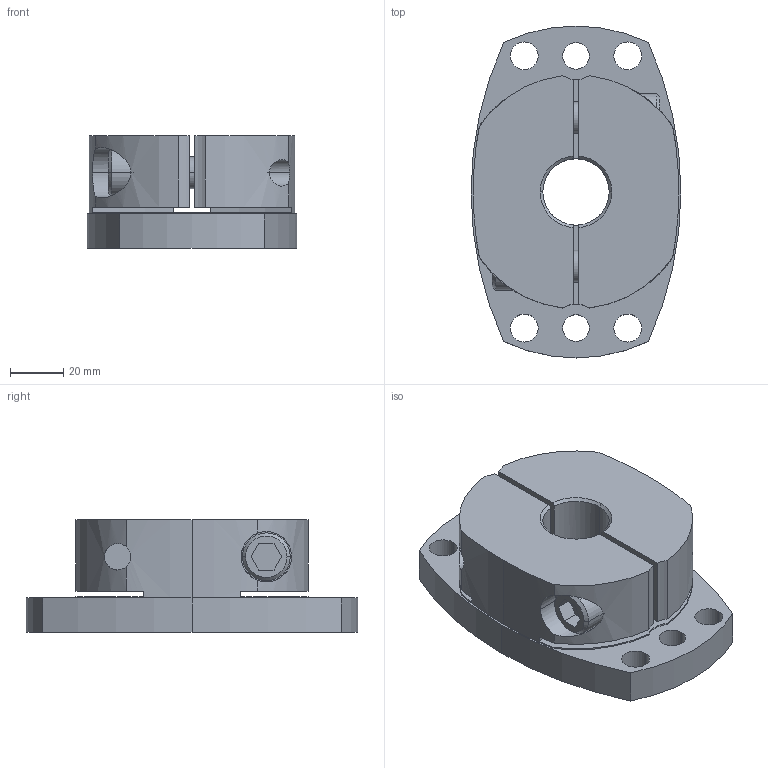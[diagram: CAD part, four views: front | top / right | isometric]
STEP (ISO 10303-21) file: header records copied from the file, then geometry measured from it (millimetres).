
FILE_DESCRIPTION((''),'2;1');
FILE_NAME('SHDB-125B-25.stp','2026-01-28T08:47:33',(''),(''),'AutoCAD STEP 2000i','AutoCAD 2000i',', , ');
FILE_SCHEMA(('CONFIG_CONTROL_DESIGN'));
Length unit declared in the file: millimetre
Products named in the file (2): SHDB-125B-25; 忣兜1
Assembly tree (1 placements, depth 2):
  SHDB-125B-25
    忣兜1
Bounding box: 79 x 125 x 42.5 mm (x, y, z)
Volume: 235373.7 mm3; surface area: 47205.9 mm2
Topology: 1 solids, 1 shells, 102 faces, 280 edges, 184 vertices
Faces by surface type: cylinder 58, plane 34, cone 10
Entity records: 3699 total; most frequent: CARTESIAN_POINT 872, DIRECTION 602, ORIENTED_EDGE 560, EDGE_CURVE 280, AXIS2_PLACEMENT_3D 238, VERTEX_POINT 184, CIRCLE 134, VECTOR 126
